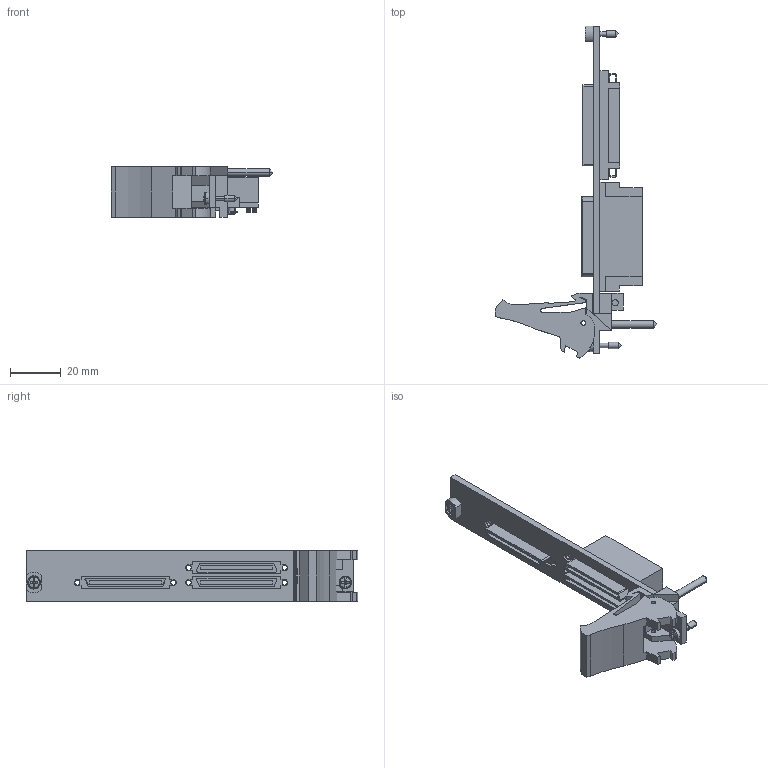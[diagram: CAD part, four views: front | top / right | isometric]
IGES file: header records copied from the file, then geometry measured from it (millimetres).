
Start section:  PTC IGES file: cu_pxi-7831r_7833r.igs
Global section: file name: cu_pxi-7831r_7833r.igs; native system: Pro/ENGINEER by Parametric Technology Corporation; preprocessor: 2010230; author: dkendric; organization: Unknown; date: 20110524.101101; units: inch
Bounding box: 63.53 x 130.5 x 20.02 mm (x, y, z)
Surface area: 17481.3 mm2 (no closed solid volume)
Topology: 0 solids, 0 shells, 505 faces, 2620 edges, 2614 vertices
Faces by surface type: bspline 328, revolution 177
